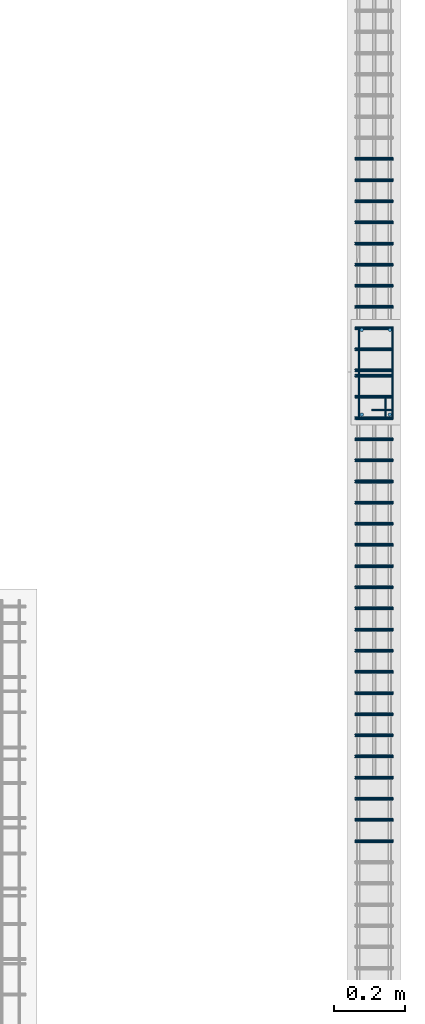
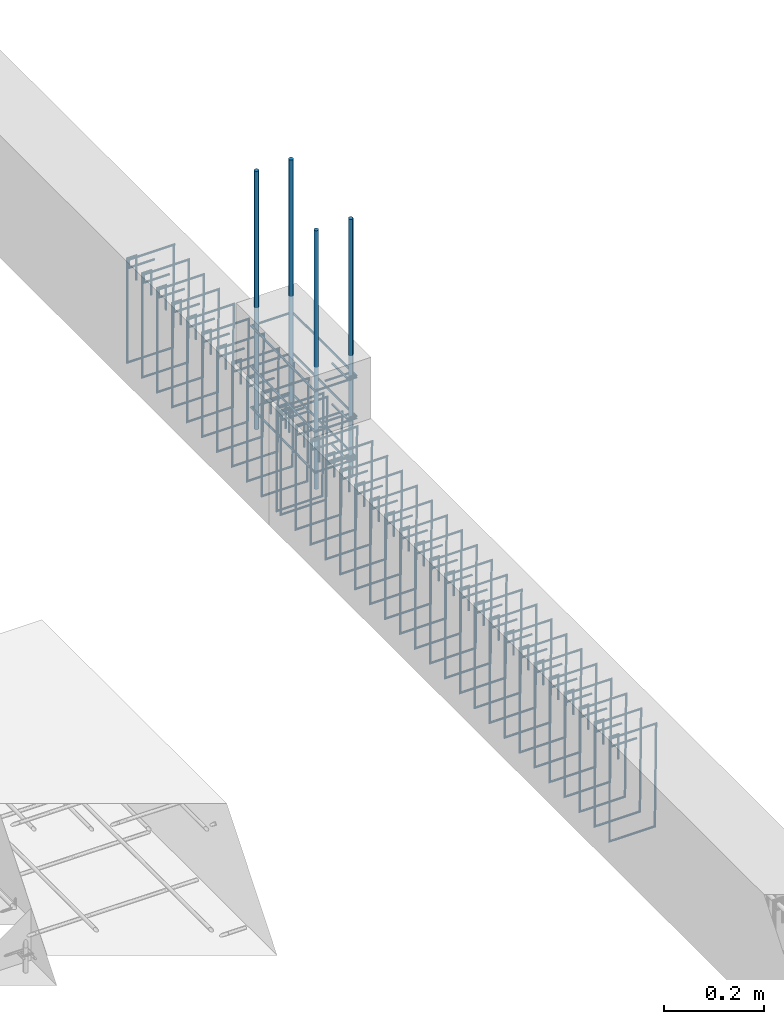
# One storey, part 144 of 150: 41 reinforcing bars.
"""IFC4 building model written with IfcOpenShell, lengths in centimetres."""

from ifc_helpers import new_model, entity, si_unit, derived_unit, frame, origin_with_axes, place, context, project, spatial, source, transform, mapped, element, save


model = new_model("IFC4")

# Units and contexts
model_context = context("Model", 3, precision=1e-05, world=origin_with_axes(), identifier="Body")
ifc_project = project(units=[si_unit("LENGTHUNIT", "METRE", prefix="CENTI"), si_unit("VOLUMEUNIT", "CUBIC_METRE"), si_unit("AREAUNIT", "SQUARE_METRE"), si_unit("POWERUNIT", "WATT"), si_unit("LUMINOUSFLUXUNIT", "LUMEN"), si_unit("ELECTRICCURRENTUNIT", "AMPERE"), si_unit("PRESSUREUNIT", "PASCAL", prefix="KILO"), si_unit("MASSUNIT", "GRAM", prefix="KILO"), si_unit("PLANEANGLEUNIT", "RADIAN"), derived_unit("VOLUMETRICFLOWRATEUNIT", [(si_unit("LENGTHUNIT", "METRE"), 3), (si_unit("TIMEUNIT", "SECOND"), -1)])], contexts=[model_context])

# Site, building, storey
site_placement = place(None, frame((-4000.0, 0.0, 0.0), z_axis=(0.0, 0.0, 1.0), x_axis=(1.0, 0.0, 0.0)))
site = spatial("IfcSite", under=ifc_project, at=site_placement, Name="PADRÃO")
building_placement = place(site_placement, frame((0.0, 0.0, -14.0)))
building = spatial("IfcBuilding", under=site, at=building_placement, Name="CRECHE PRÉ-ESCOLA TIPO 2")
placement = place(building_placement, origin_with_axes())
storey_placement = place(placement, frame((0.0, 0.0, 30.0), z_axis=(0.0, 0.0, 1.0), x_axis=(1.0, 0.0, 0.0)))
storey = spatial("IfcBuildingStorey", under=building, at=storey_placement, Name="VIGA BALDRAME", CompositionType="ELEMENT", Elevation=16.0)

# Reinforcing bars
shared_shape_1 = source(origin_with_axes(), model_context, "Body", "AdvancedSweptSolid", [
    entity("IfcSweptDiskSolid", entity("IfcCompositeCurve", [entity("IfcCompositeCurveSegment", "CONTINUOUS", True, entity("IfcPolyline", [entity("IfcCartesianPoint", [4.25, 21.75, 0.0]), entity("IfcCartesianPoint", [4.25, 27.75, 0.0])])), entity("IfcCompositeCurveSegment", "CONTINUOUS", True, entity("IfcPolyline", [entity("IfcCartesianPoint", [4.25, 27.75, 0.0]), entity("IfcCartesianPoint", [2.25, 27.75, 0.0])])), entity("IfcCompositeCurveSegment", "CONTINUOUS", True, entity("IfcPolyline", [entity("IfcCartesianPoint", [2.25, 27.75, 0.0]), entity("IfcCartesianPoint", [2.25, 2.25, 0.0])])), entity("IfcCompositeCurveSegment", "CONTINUOUS", True, entity("IfcPolyline", [entity("IfcCartesianPoint", [2.25, 2.25, 0.0]), entity("IfcCartesianPoint", [11.75, 2.25, 0.0])])), entity("IfcCompositeCurveSegment", "CONTINUOUS", True, entity("IfcPolyline", [entity("IfcCartesianPoint", [11.75, 2.25, 0.0]), entity("IfcCartesianPoint", [11.75, 27.75, -0.5])])), entity("IfcCompositeCurveSegment", "CONTINUOUS", True, entity("IfcPolyline", [entity("IfcCartesianPoint", [11.75, 27.75, -0.5]), entity("IfcCartesianPoint", [2.25, 27.75, -0.5])])), entity("IfcCompositeCurveSegment", "CONTINUOUS", True, entity("IfcPolyline", [entity("IfcCartesianPoint", [2.25, 27.75, -0.5]), entity("IfcCartesianPoint", [2.25, 25.75, -0.5])])), entity("IfcCompositeCurveSegment", "CONTINUOUS", True, entity("IfcPolyline", [entity("IfcCartesianPoint", [2.25, 25.75, -0.5]), entity("IfcCartesianPoint", [8.25, 25.75, -0.5])]))], False), 0.25),
])
for number, where, z_axis, x_axis, name in (
    (1, (3999.0, 3556.5, -5.0), (0.0, 0.0, 1.0), (-1.0, 0.0, 0.0), "P38 - Estribo"),
    (2, (3999.0, 3556.5, -15.0), (0.0, 0.0, 1.0), (-1.0, 0.0, 0.0), "P38 - Estribo"),
    (3, (3999.0, 3556.5, -25.0), (0.0, 0.0, 1.0), (-1.0, 0.0, 0.0), "P38 - Estribo"),
):
    element("IfcReinforcingBar", number, at=place(storey_placement, frame(where, z_axis=z_axis, x_axis=x_axis)), inside=storey, Name=name, BarLength=0.0, CrossSectionArea=1.9634954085e-05, NominalDiameter=0.5, PredefinedType="MAIN", context=model_context, shape_type="MappedRepresentation", body=[
        mapped(shared_shape_1, transform((0.0, 0.0, 0.0), scale=1.0)),
    ])
shared_shape_2 = source(origin_with_axes(), model_context, "Body", "AdvancedSweptSolid", [
    entity("IfcSweptDiskSolid", entity("IfcCompositeCurve", [entity("IfcCompositeCurveSegment", "CONTINUOUS", True, entity("IfcPolyline", [entity("IfcCartesianPoint", [2.0, -6.0, 0.0]), entity("IfcCartesianPoint", [2.0, 0.0, 0.0])])), entity("IfcCompositeCurveSegment", "CONTINUOUS", True, entity("IfcPolyline", [entity("IfcCartesianPoint", [2.0, 0.0, 0.0]), entity("IfcCartesianPoint", [0.0, 0.0, 0.0])])), entity("IfcCompositeCurveSegment", "CONTINUOUS", True, entity("IfcPolyline", [entity("IfcCartesianPoint", [0.0, 0.0, 0.0]), entity("IfcCartesianPoint", [0.0, -25.5, 0.0])])), entity("IfcCompositeCurveSegment", "CONTINUOUS", True, entity("IfcPolyline", [entity("IfcCartesianPoint", [0.0, -25.5, 0.0]), entity("IfcCartesianPoint", [10.5, -25.5, 0.0])])), entity("IfcCompositeCurveSegment", "CONTINUOUS", True, entity("IfcPolyline", [entity("IfcCartesianPoint", [10.5, -25.5, 0.0]), entity("IfcCartesianPoint", [10.5, 0.0, 0.5])])), entity("IfcCompositeCurveSegment", "CONTINUOUS", True, entity("IfcPolyline", [entity("IfcCartesianPoint", [10.5, 0.0, 0.5]), entity("IfcCartesianPoint", [0.0, 0.0, 0.5])])), entity("IfcCompositeCurveSegment", "CONTINUOUS", True, entity("IfcPolyline", [entity("IfcCartesianPoint", [0.0, 0.0, 0.5]), entity("IfcCartesianPoint", [0.0, -2.0, 0.5])])), entity("IfcCompositeCurveSegment", "CONTINUOUS", True, entity("IfcPolyline", [entity("IfcCartesianPoint", [0.0, -2.0, 0.5]), entity("IfcCartesianPoint", [6.0, -2.0, 0.5])]))], False), 0.25),
])
for number, where, z_axis, x_axis, name in (
    (4, (3986.25, 3540.75, -17.25), (0.0, -1.0, 0.0), (1.0, 0.0, 0.0), "V230 - Estribo"),
    (5, (3986.25, 3534.75, -17.25), (0.0, -1.0, 0.0), (1.0, 0.0, 0.0), "V230 - Estribo"),
    (6, (3986.25, 3528.75, -17.25), (0.0, -1.0, 0.0), (1.0, 0.0, 0.0), "V230 - Estribo"),
    (7, (3986.25, 3522.75, -17.25), (0.0, -1.0, 0.0), (1.0, 0.0, 0.0), "V230 - Estribo"),
    (8, (3986.25, 3516.75, -17.25), (0.0, -1.0, 0.0), (1.0, 0.0, 0.0), "V230 - Estribo"),
    (9, (3986.25, 3510.75, -17.25), (0.0, -1.0, 0.0), (1.0, 0.0, 0.0), "V230 - Estribo"),
    (10, (3986.25, 3504.75, -17.25), (0.0, -1.0, 0.0), (1.0, 0.0, 0.0), "V230 - Estribo"),
    (11, (3986.25, 3498.75, -17.25), (0.0, -1.0, 0.0), (1.0, 0.0, 0.0), "V230 - Estribo"),
    (12, (3986.25, 3492.75, -17.25), (0.0, -1.0, 0.0), (1.0, 0.0, 0.0), "V230 - Estribo"),
    (13, (3986.25, 3486.75, -17.25), (0.0, -1.0, 0.0), (1.0, 0.0, 0.0), "V230 - Estribo"),
    (14, (3986.25, 3480.75, -17.25), (0.0, -1.0, 0.0), (1.0, 0.0, 0.0), "V230 - Estribo"),
    (15, (3986.25, 3474.75, -17.25), (0.0, -1.0, 0.0), (1.0, 0.0, 0.0), "V230 - Estribo"),
    (16, (3986.25, 3468.75, -17.25), (0.0, -1.0, 0.0), (1.0, 0.0, 0.0), "V230 - Estribo"),
    (17, (3986.25, 3462.75, -17.25), (0.0, -1.0, 0.0), (1.0, 0.0, 0.0), "V230 - Estribo"),
    (18, (3986.25, 3456.75, -17.25), (0.0, -1.0, 0.0), (1.0, 0.0, 0.0), "V230 - Estribo"),
    (19, (3986.25, 3450.75, -17.25), (0.0, -1.0, 0.0), (1.0, 0.0, 0.0), "V230 - Estribo"),
    (20, (3986.25, 3444.75, -17.25), (0.0, -1.0, 0.0), (1.0, 0.0, 0.0), "V230 - Estribo"),
    (21, (3986.25, 3438.75, -17.25), (0.0, -1.0, 0.0), (1.0, 0.0, 0.0), "V230 - Estribo"),
    (22, (3986.25, 3432.75, -17.25), (0.0, -1.0, 0.0), (1.0, 0.0, 0.0), "V230 - Estribo"),
    (23, (3986.25, 3426.75, -17.25), (0.0, -1.0, 0.0), (1.0, 0.0, 0.0), "V230 - Estribo"),
    (24, (3986.25, 3420.75, -17.25), (0.0, -1.0, 0.0), (1.0, 0.0, 0.0), "V230 - Estribo"),
    (25, (3986.25, 3414.75, -17.25), (0.0, -1.0, 0.0), (1.0, 0.0, 0.0), "V230 - Estribo"),
    (26, (3986.25, 3408.75, -17.25), (0.0, -1.0, 0.0), (1.0, 0.0, 0.0), "V230 - Estribo"),
):
    element("IfcReinforcingBar", number, at=place(storey_placement, frame(where, z_axis=z_axis, x_axis=x_axis)), inside=storey, Name=name, BarLength=0.0, CrossSectionArea=1.9634954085e-05, NominalDiameter=0.5, PredefinedType="MAIN", context=model_context, shape_type="MappedRepresentation", body=[
        mapped(shared_shape_2, transform((0.0, 0.0, 0.0), scale=1.0)),
    ])
shared_shape_3 = source(origin_with_axes(), model_context, "Body", "AdvancedSweptSolid", [
    entity("IfcSweptDiskSolid", entity("IfcCompositeCurve", [entity("IfcCompositeCurveSegment", "CONTINUOUS", True, entity("IfcPolyline", [entity("IfcCartesianPoint", [2.0, -6.0, 0.0]), entity("IfcCartesianPoint", [2.0, 0.0, 0.0])])), entity("IfcCompositeCurveSegment", "CONTINUOUS", True, entity("IfcPolyline", [entity("IfcCartesianPoint", [2.0, 0.0, 0.0]), entity("IfcCartesianPoint", [0.0, 0.0, 0.0])])), entity("IfcCompositeCurveSegment", "CONTINUOUS", True, entity("IfcPolyline", [entity("IfcCartesianPoint", [0.0, 0.0, 0.0]), entity("IfcCartesianPoint", [0.0, -25.5, 0.0])])), entity("IfcCompositeCurveSegment", "CONTINUOUS", True, entity("IfcPolyline", [entity("IfcCartesianPoint", [0.0, -25.5, 0.0]), entity("IfcCartesianPoint", [10.5, -25.5, 0.0])])), entity("IfcCompositeCurveSegment", "CONTINUOUS", True, entity("IfcPolyline", [entity("IfcCartesianPoint", [10.5, -25.5, 0.0]), entity("IfcCartesianPoint", [10.5, 0.0, 0.5])])), entity("IfcCompositeCurveSegment", "CONTINUOUS", True, entity("IfcPolyline", [entity("IfcCartesianPoint", [10.5, 0.0, 0.5]), entity("IfcCartesianPoint", [0.0, 0.0, 0.5])])), entity("IfcCompositeCurveSegment", "CONTINUOUS", True, entity("IfcPolyline", [entity("IfcCartesianPoint", [0.0, 0.0, 0.5]), entity("IfcCartesianPoint", [0.0, -2.0, 0.5])])), entity("IfcCompositeCurveSegment", "CONTINUOUS", True, entity("IfcPolyline", [entity("IfcCartesianPoint", [0.0, -2.0, 0.5]), entity("IfcCartesianPoint", [6.0, -2.0, 0.5])]))], False), 0.25),
])
for number, where, z_axis, x_axis, name in (
    (27, (3986.25, 3602.25, -17.25), (0.0, -1.0, 0.0), (1.0, 0.0, 0.0), "V230 - Estribo"),
    (28, (3986.25, 3596.25, -17.25), (0.0, -1.0, 0.0), (1.0, 0.0, 0.0), "V230 - Estribo"),
    (29, (3986.25, 3590.25, -17.25), (0.0, -1.0, 0.0), (1.0, 0.0, 0.0), "V230 - Estribo"),
    (30, (3986.25, 3584.25, -17.25), (0.0, -1.0, 0.0), (1.0, 0.0, 0.0), "V230 - Estribo"),
    (31, (3986.25, 3578.25, -17.25), (0.0, -1.0, 0.0), (1.0, 0.0, 0.0), "V230 - Estribo"),
    (32, (3986.25, 3572.25, -17.25), (0.0, -1.0, 0.0), (1.0, 0.0, 0.0), "V230 - Estribo"),
    (33, (3986.25, 3566.25, -17.25), (0.0, -1.0, 0.0), (1.0, 0.0, 0.0), "V230 - Estribo"),
    (34, (3986.25, 3560.25, -17.25), (0.0, -1.0, 0.0), (1.0, 0.0, 0.0), "V230 - Estribo"),
    (35, (3986.25, 3554.25, -17.25), (0.0, -1.0, 0.0), (1.0, 0.0, 0.0), "V230 - Estribo"),
    (36, (3986.25, 3548.25, -17.25), (0.0, -1.0, 0.0), (1.0, 0.0, 0.0), "V230 - Estribo"),
    (37, (3986.25, 3542.25, -17.25), (0.0, -1.0, 0.0), (1.0, 0.0, 0.0), "V230 - Estribo"),
):
    element("IfcReinforcingBar", number, at=place(storey_placement, frame(where, z_axis=z_axis, x_axis=x_axis)), inside=storey, Name=name, BarLength=0.0, CrossSectionArea=1.9634954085e-05, NominalDiameter=0.5, PredefinedType="MAIN", context=model_context, shape_type="MappedRepresentation", body=[
        mapped(shared_shape_3, transform((0.0, 0.0, 0.0), scale=1.0)),
    ])
for number, where, z_axis, x_axis, name in (
    (38, (3988.0, 3529.5, 33.3573001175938), (0.0, 0.0, 1.0), (1.0, 0.0, 0.0), "P38 - Longitudinal"),
    (39, (3996.0, 3529.5, 33.3573001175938), (0.0, 0.0, 1.0), (1.0, 0.0, 0.0), "P38 - Longitudinal"),
    (40, (3996.0, 3553.5, 33.3573001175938), (0.0, 0.0, 1.0), (1.0, 0.0, 0.0), "P38 - Longitudinal"),
    (41, (3988.0, 3553.5, 33.3573001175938), (0.0, 0.0, 1.0), (1.0, 0.0, 0.0), "P38 - Longitudinal"),
):
    element("IfcReinforcingBar", number, at=place(storey_placement, frame(where, z_axis=z_axis, x_axis=x_axis)), inside=storey, Name=name, BarLength=0.0, CrossSectionArea=7.853981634e-05, NominalDiameter=1.0, PredefinedType="MAIN", context=model_context, shape_type="AdvancedSweptSolid", body=[
        entity("IfcSweptDiskSolid", entity("IfcCompositeCurve", [entity("IfcCompositeCurveSegment", "CONTINUOUS", True, entity("IfcPolyline", [entity("IfcCartesianPoint", [0.0, 0.0, -63.3573001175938]), entity("IfcCartesianPoint", [0.0, 0.0, 0.0])]))], False), 0.5),
    ])

save(model, "model.ifc")
